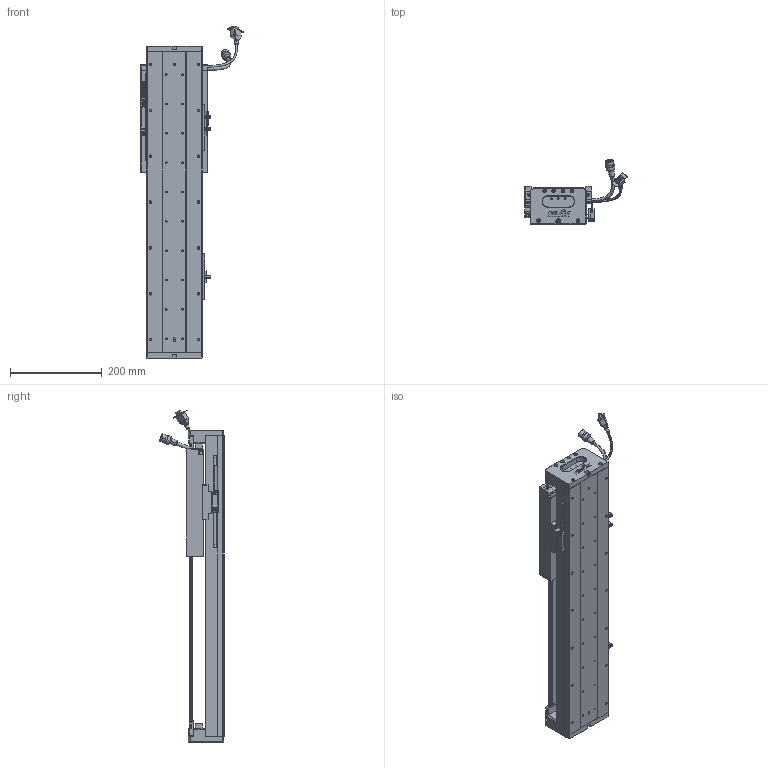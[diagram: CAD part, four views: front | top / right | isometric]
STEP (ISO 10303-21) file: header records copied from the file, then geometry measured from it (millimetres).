
FILE_DESCRIPTION (( 'STEP AP203' ), '1' );
FILE_NAME ('Z3-RY120D-1-L500-B-K.SLDASM_0350.step', '2021-05-17T05:45:51', ( '盈信电脑' ), ( '东莞市道滘镇水果街19号' ), 'SwSTEP 2.0', 'SolidWorks 2016', '' );
FILE_SCHEMA (( 'CONFIG_CONTROL_DESIGN' ));
Length unit declared in the file: millimetre
Products named in the file (37): SCREW-M1.6-2; HARNESS-Part-2; SCREW-M1.6; 120-Z-臏賑輸盄裔(21遴); Z-120詩湍傷裔啣; PBU_SHEET; SCREW-M1.6-1; SCREW-M1.7-1; COVER; RY100FB-遵嫖萇覜茼え; SCALE; 覜茼ん672; HARNESS-Part-1; 榋妏寠巭燃_暯_M2_2; SEAL-Part-1; 140雄赽晤鎢ん堤盄; SEAL; 672嫖萇羲壽假蚾釱; HARNESS; Z-RY120D詩湍奻揤裔; LABEL; HOLDER0; SCREW-M1.7; SCALE-Part-2; Z3-RY120-500-倰第菁釱_0350; PSLH080_PSLF2; SHIELDPLATE; LABEL-Part-1; Z3-RY120-L500詩湍100mm遵_0350; Z3-RY120铝滑块（21款）; SCREW-M1.6-3; COVER-Part-1; SCALE-Part-1; 140蚥薯蝶輸; Z-RY120D詩湍狟揤裔; 080黍杅芛假蚾釱21遴; Z3-RY120D-1-L500-B-K.SLDASM_0350
Assembly tree (43 placements, depth 4):
  Z3-RY120D-1-L500-B-K.SLDASM_0350
    Z3-RY120-500-倰第菁釱_0350
    覜茼ん672  x3
    672嫖萇羲壽假蚾釱  x2
    Z3-RY120铝滑块（21款）
    PSLH080_PSLF2
      SCALE
        SCALE-Part-1
        SCALE-Part-2
      HARNESS
        HARNESS-Part-1
        HARNESS-Part-2
      LABEL
        LABEL-Part-1
      COVER
        COVER-Part-1
      SEAL
        SEAL-Part-1
      榋妏寠巭燃_暯_M2_2
      SHIELDPLATE
      SCREW-M1.7
      SCREW-M1.7-1
      PBU_SHEET
      SCREW-M1.6
      SCREW-M1.6-1
      SCREW-M1.6-2
      SCREW-M1.6-3
      HOLDER0
    080黍杅芛假蚾釱21遴
    120-Z-臏賑輸盄裔(21遴)
    140雄赽晤鎢ん堤盄
    140蚥薯蝶輸  x2
    RY100FB-遵嫖萇覜茼え
    Z-120詩湍傷裔啣  x2
    Z-RY120D詩湍奻揤裔  x2
    Z-RY120D詩湍狟揤裔  x2
    Z3-RY120-L500詩湍100mm遵_0350
Bounding box: 222.88 x 140.94 x 724 mm (x, y, z)
Volume: 2360531.4 mm3; surface area: 758293.1 mm2
Topology: 38 solids, 38 shells, 2625 faces, 6979 edges, 4410 vertices
Faces by surface type: cylinder 1153, plane 1096, cone 254, torus 69, bspline 53
Entity records: 76202 total; most frequent: CARTESIAN_POINT 19363, DIRECTION 11019, ORIENTED_EDGE 10974, EDGE_CURVE 5487, AXIS2_PLACEMENT_3D 4016, VERTEX_POINT 3530, VECTOR 2987, LINE 2987
